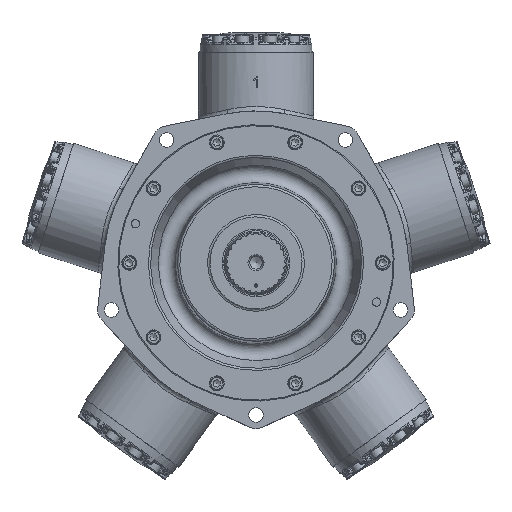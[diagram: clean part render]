
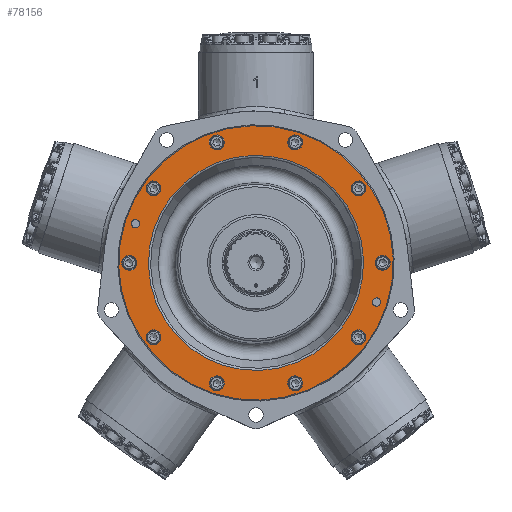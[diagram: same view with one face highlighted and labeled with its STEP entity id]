
A CAD part, top view. The second image highlights one B-rep face of the part: STEP entity #78156.
In plain terms, the highlighted planar face has unit normal (0, 0, 1).
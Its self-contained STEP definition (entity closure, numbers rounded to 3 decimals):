
#1872=FACE_BOUND('',#17977,.T.);
#1873=FACE_BOUND('',#17978,.T.);
#1874=FACE_BOUND('',#17979,.T.);
#1875=FACE_BOUND('',#17980,.T.);
#1876=FACE_BOUND('',#17981,.T.);
#1877=FACE_BOUND('',#17982,.T.);
#1878=FACE_BOUND('',#17983,.T.);
#1879=FACE_BOUND('',#17984,.T.);
#1880=FACE_BOUND('',#17985,.T.);
#1881=FACE_BOUND('',#17986,.T.);
#1882=FACE_BOUND('',#17987,.T.);
#1883=FACE_BOUND('',#17988,.T.);
#1884=FACE_BOUND('',#17989,.T.);
#2517=PLANE('',#83590);
#13066=FACE_OUTER_BOUND('',#17976,.T.);
#17976=EDGE_LOOP('',(#54354));
#17977=EDGE_LOOP('',(#54355));
#17978=EDGE_LOOP('',(#54356));
#17979=EDGE_LOOP('',(#54357));
#17980=EDGE_LOOP('',(#54358));
#17981=EDGE_LOOP('',(#54359));
#17982=EDGE_LOOP('',(#54360));
#17983=EDGE_LOOP('',(#54361));
#17984=EDGE_LOOP('',(#54362));
#17985=EDGE_LOOP('',(#54363));
#17986=EDGE_LOOP('',(#54364));
#17987=EDGE_LOOP('',(#54365));
#17988=EDGE_LOOP('',(#54366));
#17989=EDGE_LOOP('',(#54367));
#22429=CIRCLE('',#83571,148.273);
#22441=CIRCLE('',#83591,189.179);
#22442=CIRCLE('',#83592,5.664);
#22443=CIRCLE('',#83593,5.664);
#22444=CIRCLE('',#83594,10.319);
#22445=CIRCLE('',#83595,10.319);
#22446=CIRCLE('',#83596,10.319);
#22447=CIRCLE('',#83597,10.319);
#22448=CIRCLE('',#83598,10.319);
#22449=CIRCLE('',#83599,10.319);
#22450=CIRCLE('',#83600,10.319);
#22451=CIRCLE('',#83601,10.319);
#22452=CIRCLE('',#83602,10.319);
#22453=CIRCLE('',#83603,10.319);
#30776=VERTEX_POINT('',#155985);
#30786=VERTEX_POINT('',#156019);
#30787=VERTEX_POINT('',#156021);
#30788=VERTEX_POINT('',#156023);
#30789=VERTEX_POINT('',#156025);
#30790=VERTEX_POINT('',#156027);
#30791=VERTEX_POINT('',#156029);
#30792=VERTEX_POINT('',#156031);
#30793=VERTEX_POINT('',#156033);
#30794=VERTEX_POINT('',#156035);
#30795=VERTEX_POINT('',#156037);
#30796=VERTEX_POINT('',#156039);
#30797=VERTEX_POINT('',#156041);
#30798=VERTEX_POINT('',#156043);
#39179=EDGE_CURVE('',#30776,#30776,#22429,.T.);
#39194=EDGE_CURVE('',#30786,#30786,#22441,.T.);
#39195=EDGE_CURVE('',#30787,#30787,#22442,.T.);
#39196=EDGE_CURVE('',#30788,#30788,#22443,.T.);
#39197=EDGE_CURVE('',#30789,#30789,#22444,.T.);
#39198=EDGE_CURVE('',#30790,#30790,#22445,.T.);
#39199=EDGE_CURVE('',#30791,#30791,#22446,.T.);
#39200=EDGE_CURVE('',#30792,#30792,#22447,.T.);
#39201=EDGE_CURVE('',#30793,#30793,#22448,.T.);
#39202=EDGE_CURVE('',#30794,#30794,#22449,.T.);
#39203=EDGE_CURVE('',#30795,#30795,#22450,.T.);
#39204=EDGE_CURVE('',#30796,#30796,#22451,.T.);
#39205=EDGE_CURVE('',#30797,#30797,#22452,.T.);
#39206=EDGE_CURVE('',#30798,#30798,#22453,.T.);
#54354=ORIENTED_EDGE('',*,*,#39194,.F.);
#54355=ORIENTED_EDGE('',*,*,#39195,.T.);
#54356=ORIENTED_EDGE('',*,*,#39196,.T.);
#54357=ORIENTED_EDGE('',*,*,#39197,.T.);
#54358=ORIENTED_EDGE('',*,*,#39198,.T.);
#54359=ORIENTED_EDGE('',*,*,#39199,.T.);
#54360=ORIENTED_EDGE('',*,*,#39200,.T.);
#54361=ORIENTED_EDGE('',*,*,#39201,.T.);
#54362=ORIENTED_EDGE('',*,*,#39202,.T.);
#54363=ORIENTED_EDGE('',*,*,#39203,.T.);
#54364=ORIENTED_EDGE('',*,*,#39204,.T.);
#54365=ORIENTED_EDGE('',*,*,#39205,.T.);
#54366=ORIENTED_EDGE('',*,*,#39206,.T.);
#54367=ORIENTED_EDGE('',*,*,#39179,.F.);
#78156=ADVANCED_FACE('',(#13066,#1872,#1873,#1874,#1875,#1876,#1877,#1878,
#1879,#1880,#1881,#1882,#1883,#1884),#2517,.T.);
#83571=AXIS2_PLACEMENT_3D('',#155987,#93463,#93464);
#83590=AXIS2_PLACEMENT_3D('',#156018,#93504,#93505);
#83591=AXIS2_PLACEMENT_3D('',#156020,#93506,#93507);
#83592=AXIS2_PLACEMENT_3D('',#156022,#93508,#93509);
#83593=AXIS2_PLACEMENT_3D('',#156024,#93510,#93511);
#83594=AXIS2_PLACEMENT_3D('',#156026,#93512,#93513);
#83595=AXIS2_PLACEMENT_3D('',#156028,#93514,#93515);
#83596=AXIS2_PLACEMENT_3D('',#156030,#93516,#93517);
#83597=AXIS2_PLACEMENT_3D('',#156032,#93518,#93519);
#83598=AXIS2_PLACEMENT_3D('',#156034,#93520,#93521);
#83599=AXIS2_PLACEMENT_3D('',#156036,#93522,#93523);
#83600=AXIS2_PLACEMENT_3D('',#156038,#93524,#93525);
#83601=AXIS2_PLACEMENT_3D('',#156040,#93526,#93527);
#83602=AXIS2_PLACEMENT_3D('',#156042,#93528,#93529);
#83603=AXIS2_PLACEMENT_3D('',#156044,#93530,#93531);
#93463=DIRECTION('center_axis',(0.,0.,
1.));
#93464=DIRECTION('ref_axis',(-0.951,0.309,0.));
#93504=DIRECTION('center_axis',(0.,0.,
1.));
#93505=DIRECTION('ref_axis',(-0.309,-0.951,0.));
#93506=DIRECTION('center_axis',(0.,0.,
-1.));
#93507=DIRECTION('ref_axis',(-0.951,0.309,0.));
#93508=DIRECTION('center_axis',(0.,0.,
-1.));
#93509=DIRECTION('ref_axis',(-0.309,-0.951,0.));
#93510=DIRECTION('center_axis',(0.,0.,
-1.));
#93511=DIRECTION('ref_axis',(-0.309,-0.951,0.));
#93512=DIRECTION('center_axis',(0.,0.,
-1.));
#93513=DIRECTION('ref_axis',(0.809,0.588,0.));
#93514=DIRECTION('center_axis',(0.,0.,
-1.));
#93515=DIRECTION('ref_axis',(1.,0.,0.));
#93516=DIRECTION('center_axis',(0.,0.,
-1.));
#93517=DIRECTION('ref_axis',(0.809,-0.588,0.));
#93518=DIRECTION('center_axis',(0.,0.,
-1.));
#93519=DIRECTION('ref_axis',(0.309,-0.951,0.));
#93520=DIRECTION('center_axis',(0.,0.,
-1.));
#93521=DIRECTION('ref_axis',(-0.309,-0.951,0.));
#93522=DIRECTION('center_axis',(0.,0.,
-1.));
#93523=DIRECTION('ref_axis',(-0.809,-0.588,0.));
#93524=DIRECTION('center_axis',(0.,0.,
-1.));
#93525=DIRECTION('ref_axis',(-1.,0.,0.));
#93526=DIRECTION('center_axis',(0.,0.,
-1.));
#93527=DIRECTION('ref_axis',(-0.809,0.588,0.));
#93528=DIRECTION('center_axis',(0.,0.,
-1.));
#93529=DIRECTION('ref_axis',(-0.309,0.951,0.));
#93530=DIRECTION('center_axis',(0.,0.,
-1.));
#93531=DIRECTION('ref_axis',(0.309,0.951,0.));
#155985=CARTESIAN_POINT('',(45.819,141.016,19.664));
#155987=CARTESIAN_POINT('Origin',(0.,0.,
19.664));
#156018=CARTESIAN_POINT('Origin',(161.549,-52.49,19.664));
#156019=CARTESIAN_POINT('',(179.92,-58.459,19.664));
#156020=CARTESIAN_POINT('Origin',(0.,0.,
19.664));
#156021=CARTESIAN_POINT('',(167.829,-48.575,19.664));
#156022=CARTESIAN_POINT('Origin',(166.078,-53.962,19.664));
#156023=CARTESIAN_POINT('',(-164.328,59.349,19.664));
#156024=CARTESIAN_POINT('Origin',(-166.078,53.962,19.664));
#156025=CARTESIAN_POINT('',(-149.623,-108.707,19.664));
#156026=CARTESIAN_POINT('Origin',(-141.275,-102.642,19.664));
#156027=CARTESIAN_POINT('',(-184.944,0.,19.664));
#156028=CARTESIAN_POINT('Origin',(-174.625,0.,19.664));
#156029=CARTESIAN_POINT('',(-149.623,108.707,19.664));
#156030=CARTESIAN_POINT('Origin',(-141.275,102.642,19.664));
#156031=CARTESIAN_POINT('',(-57.151,175.892,19.664));
#156032=CARTESIAN_POINT('Origin',(-53.962,166.078,19.664));
#156033=CARTESIAN_POINT('',(57.151,175.892,19.664));
#156034=CARTESIAN_POINT('Origin',(53.962,166.078,19.664));
#156035=CARTESIAN_POINT('',(149.623,108.707,19.664));
#156036=CARTESIAN_POINT('Origin',(141.275,102.642,19.664));
#156037=CARTESIAN_POINT('',(184.944,0.,19.664));
#156038=CARTESIAN_POINT('Origin',(174.625,0.,19.664));
#156039=CARTESIAN_POINT('',(149.623,-108.707,19.664));
#156040=CARTESIAN_POINT('Origin',(141.275,-102.642,19.664));
#156041=CARTESIAN_POINT('',(57.151,-175.892,19.664));
#156042=CARTESIAN_POINT('Origin',(53.962,-166.078,19.664));
#156043=CARTESIAN_POINT('',(-57.151,-175.892,19.664));
#156044=CARTESIAN_POINT('Origin',(-53.962,-166.078,19.664));
